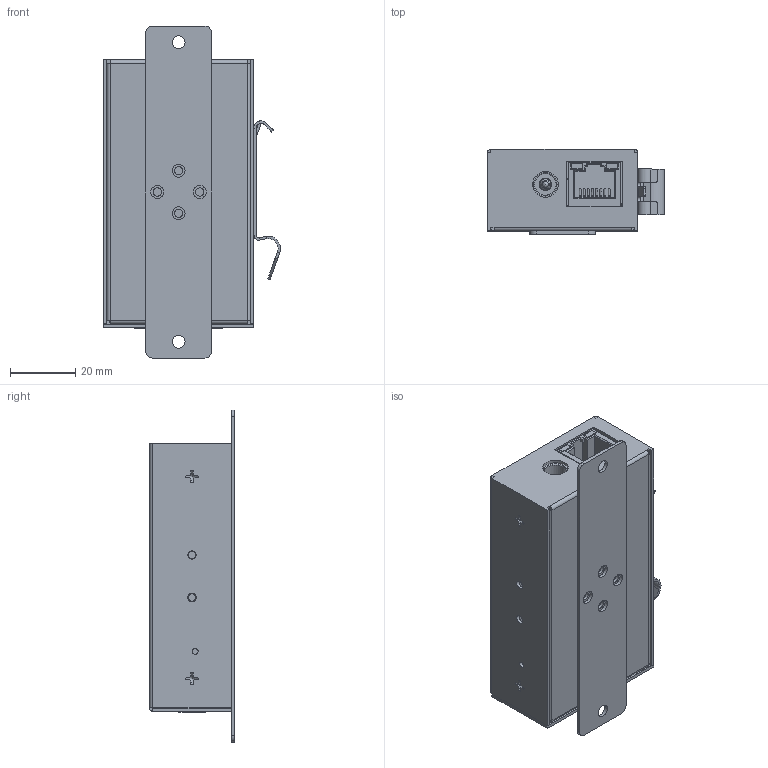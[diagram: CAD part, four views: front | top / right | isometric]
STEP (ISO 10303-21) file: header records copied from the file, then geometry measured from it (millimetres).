
FILE_DESCRIPTION(/* description */ (''),/* implementation_level */ '2;1');
FILE_NAME(/* name */ '/Users/leo/Desktop/Desktop - Leonardo’s MacBook Air/Coolgear May/MSD-SRP2XM-TBPRO/MSD-SRP2XM-TBPRO Model3D LPV1.step',/* time_stamp */ '2021-07-08T14:24:27-04:00',/* author */ (''),/* organization */ (''),/* preprocessor_version */ 'ST-DEVELOPER v18.1',/* originating_system */ 'Autodesk Translation Framework v10.9.0.1377',/* authorisation */ '');
FILE_SCHEMA (('AUTOMOTIVE_DESIGN { 1 0 10303 214 3 1 1 }'));
Length unit declared in the file: millimetre
Products named in the file (19): MSD-SRP2XM-TBPRO; Component1; 93090A547; Component4; Terminal male 10 pin green v3; Terminal 10 pins green v1 (1); LAN connector v1; HR911105A; Connector Volts Black plastic v2; Component1 (1); Component2 (1); Component3 (1); Component4 (1); Bolt M3X0.5 90Angle head.5-4mmL v1; DINRCLP3X 14mmW v12; DINRCLP3X; M3X0.5 China 120ang METRIC 18-8 SS FLAT HEAD PHIL MACHINE SCREW v2; Component20; Component21
Assembly tree (23 placements, depth 3):
  MSD-SRP2XM-TBPRO
    Component1
      93090A547  x2
    Component4
    Terminal male 10 pin green v3
      Terminal 10 pins green v1 (1)
    LAN connector v1
      HR911105A
    Connector Volts Black plastic v2
      Component1 (1)
      Component2 (1)
      Component3 (1)
      Component4 (1)
    Bolt M3X0.5 90Angle head.5-4mmL v1  x4
    DINRCLP3X 14mmW v12
      DINRCLP3X
      M3X0.5 China 120ang METRIC 18-8 SS FLAT HEAD PHIL MACHINE SCREW v2  x2
    Component20
    Component21
Bounding box: 54.21 x 26 x 101.62 mm (x, y, z)
Volume: 27827.6 mm3; surface area: 44331.3 mm2
Topology: 7 solids, 7 shells, 976 faces, 2626 edges, 1694 vertices
Faces by surface type: plane 564, cylinder 269, cone 102, bspline 27, torus 12, sphere 2
Full cylindrical faces by diameter (mm): 0.8 x38, 1 x4, 1.5 x4, 1.8 x10, 1.847 x1, 1.85 x2, 2.323 x12, 2.35 x8, 2.376 x1, 2.529 x8, 3 x26, 3.894 x1, 3.95 x6, 5.4 x2, 5.544 x2, 6.6 x1, 7.9 x1
Entity records: 37915 total; most frequent: CARTESIAN_POINT 14298, ORIENTED_EDGE 4958, DIRECTION 4616, EDGE_CURVE 2479, VERTEX_POINT 1614, LINE 1586, VECTOR 1586, AXIS2_PLACEMENT_3D 1515
